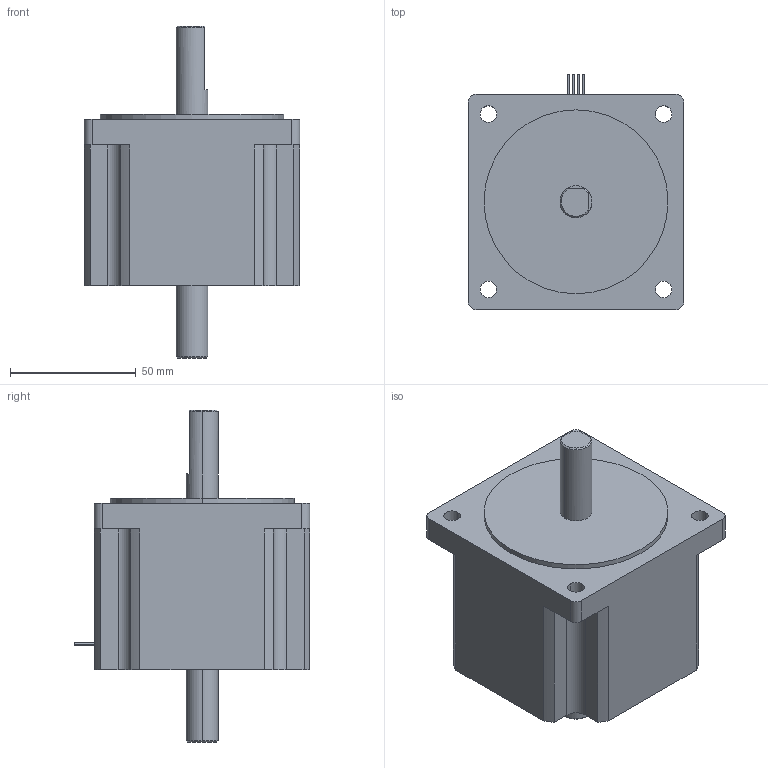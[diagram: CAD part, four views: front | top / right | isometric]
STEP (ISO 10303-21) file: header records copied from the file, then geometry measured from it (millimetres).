
FILE_DESCRIPTION((''),'2;1');
FILE_NAME('C:\Documents and Settings\rbadgerow\Desktop\webmodelmain\web step 3d\8718s\8718s d.stp','2005-05-24T07:35:45',('rbadgerow'),(''),'Autodesk Inventor 9','Autodesk Inventor 9','');
FILE_SCHEMA(('AUTOMOTIVE_DESIGN { 1 0 10303 214 1 1 1 1 }'));
Length unit declared in the file: inch
Products named in the file (1): 8718s d
Bounding box: 85.6 x 93.6 x 131.83 mm (x, y, z)
Volume: 451068.1 mm3; surface area: 39740.9 mm2
Topology: 1 solids, 2 shells, 76 faces, 194 edges, 129 vertices
Faces by surface type: cylinder 40, plane 31, cone 5
Entity records: 2376 total; most frequent: DIRECTION 435, CARTESIAN_POINT 408, ORIENTED_EDGE 388, EDGE_CURVE 194, AXIS2_PLACEMENT_3D 168, VERTEX_POINT 129, VECTOR 99, LINE 99
